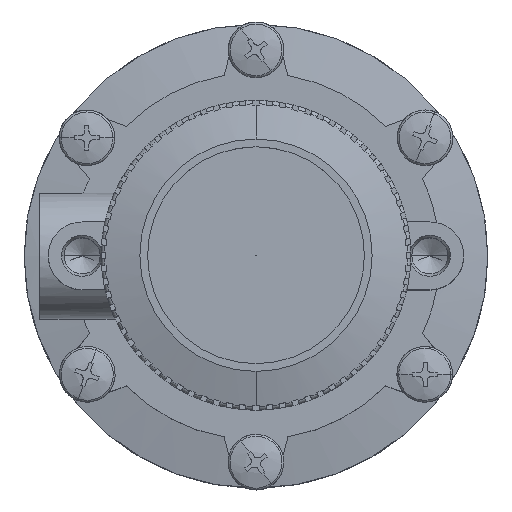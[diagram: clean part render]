
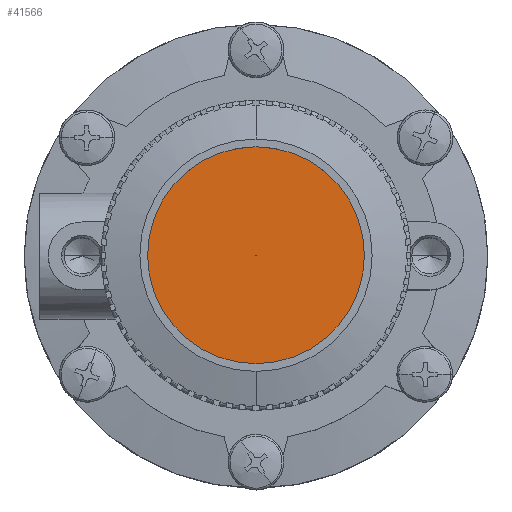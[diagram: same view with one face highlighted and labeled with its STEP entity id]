
A CAD part, top view. The second image highlights one B-rep face of the part: STEP entity #41566.
In plain terms, the highlighted planar face has unit normal (0, 0, 1).
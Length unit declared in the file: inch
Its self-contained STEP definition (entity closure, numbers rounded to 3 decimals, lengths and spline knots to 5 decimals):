
#13806=CARTESIAN_POINT('',(0.,0.,4.06825));
#13807=DIRECTION('',(0.,0.,1.));
#13808=DIRECTION('',(0.,-1.,0.));
#13809=AXIS2_PLACEMENT_3D('',#13806,#13807,#13808);
#13811=CARTESIAN_POINT('',(0.,0.,4.06825));
#13812=DIRECTION('',(0.,0.,1.));
#13813=DIRECTION('',(0.,1.,0.));
#13814=AXIS2_PLACEMENT_3D('',#13811,#13812,#13813);
#13816=CARTESIAN_POINT('',(0.,0.,4.06825));
#13817=DIRECTION('',(0.,0.,-1.));
#13818=DIRECTION('',(0.,1.,0.));
#13819=AXIS2_PLACEMENT_3D('',#13816,#13817,#13818);
#13821=CARTESIAN_POINT('',(0.,0.,4.06825));
#13822=DIRECTION('',(0.,0.,-1.));
#13823=DIRECTION('',(0.,-1.,0.));
#13824=AXIS2_PLACEMENT_3D('',#13821,#13822,#13823);
#19617=CARTESIAN_POINT('',(0.,0.00144,4.06825));
#19619=VERTEX_POINT('',#19617);
#19621=CARTESIAN_POINT('',(0.,-0.00144,4.06825));
#19623=VERTEX_POINT('',#19621);
#19626=CARTESIAN_POINT('',(0.,0.70144,4.06825));
#19628=VERTEX_POINT('',#19626);
#19630=CARTESIAN_POINT('',(0.,-0.70144,4.06825));
#19632=VERTEX_POINT('',#19630);
#41550=CARTESIAN_POINT('',(0.,0.35144,4.06825));
#41551=DIRECTION('',(0.,0.,1.));
#41552=DIRECTION('',(1.,0.,0.));
#41553=AXIS2_PLACEMENT_3D('',#41550,#41551,#41552);
#41554=PLANE('',#41553);
#41555=ORIENTED_EDGE('',*,*,#41533,.F.);
#41557=ORIENTED_EDGE('',*,*,#41556,.F.);
#41558=EDGE_LOOP('',(#41555,#41557));
#41559=FACE_OUTER_BOUND('',#41558,.F.);
#41561=ORIENTED_EDGE('',*,*,#41560,.F.);
#41563=ORIENTED_EDGE('',*,*,#41562,.F.);
#41564=EDGE_LOOP('',(#41561,#41563));
#41565=FACE_BOUND('',#41564,.F.);
#13810=CIRCLE('',#13809,0.70144);
#13815=CIRCLE('',#13814,0.70144);
#13820=CIRCLE('',#13819,0.00144);
#13825=CIRCLE('',#13824,0.00144);
#41533=EDGE_CURVE('',#19632,#19628,#13810,.T.);
#41556=EDGE_CURVE('',#19628,#19632,#13815,.T.);
#41560=EDGE_CURVE('',#19619,#19623,#13820,.T.);
#41562=EDGE_CURVE('',#19623,#19619,#13825,.T.);
#41566=ADVANCED_FACE('',(#41559,#41565),#41554,.T.);
